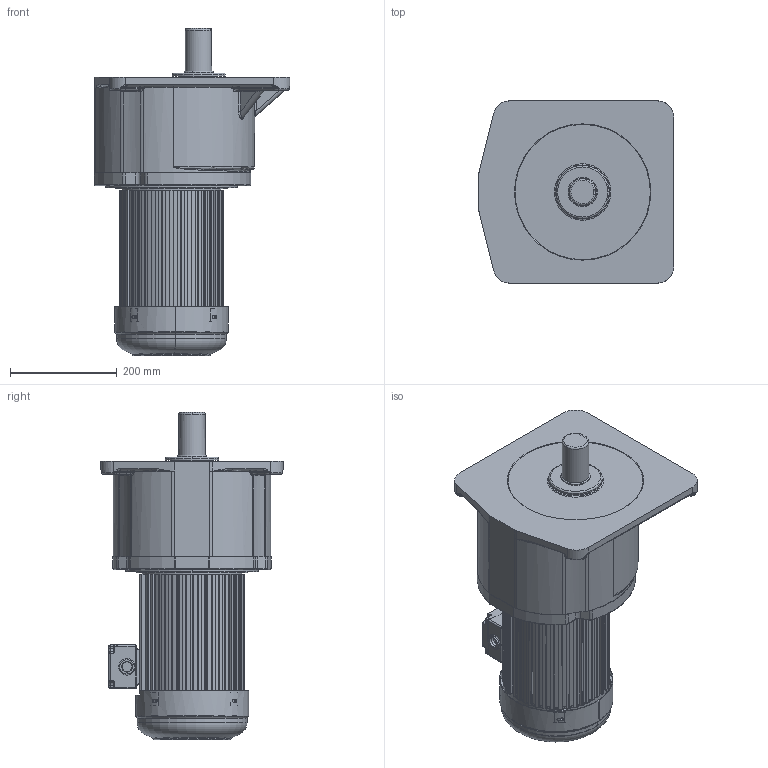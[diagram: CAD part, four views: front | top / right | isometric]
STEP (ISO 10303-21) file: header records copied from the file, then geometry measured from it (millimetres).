
FILE_DESCRIPTION(('HOOPS Exchange Step'),'2;1');
FILE_NAME('D:/conver/TZT.New3D001/output/fed9e521-2eb9-4ab3-9157-ce20001996f2/GV50-3700-□-S-B-G1-LB.step','2026-07-29T08:51:14+08:00',('SYSTEM'),('Unknown organisation'),'HOOPS Exchange 2024.3','HOOPS Exchange','Unknown authorisation');
FILE_SCHEMA( ('AP203_CONFIGURATION_CONTROLLED_3D_DESIGN_OF_MECHANICAL_PARTS_AND_ASSEMBLIES_MIM_LF') );
Length unit declared in the file: millimetre
Products named in the file (1): AdmiE513rs3i
Bounding box: 367 x 342 x 614 mm (x, y, z)
Volume: 20691179.9 mm3; surface area: 1323494 mm2
Topology: 1 solids, 8 shells, 2160 faces, 5891 edges, 3703 vertices
Faces by surface type: plane 984, cylinder 769, torus 224, bspline 101, sphere 60, cone 22
Full cylindrical faces by diameter (mm): 50 x1, 55 x1, 66 x2, 180.5 x1, 246 x1
Entity records: 76830 total; most frequent: CARTESIAN_POINT 21793, ORIENTED_EDGE 11630, DIRECTION 11391, EDGE_CURVE 5815, AXIS2_PLACEMENT_3D 3959, VERTEX_POINT 3703, VECTOR 3473, LINE 3473
